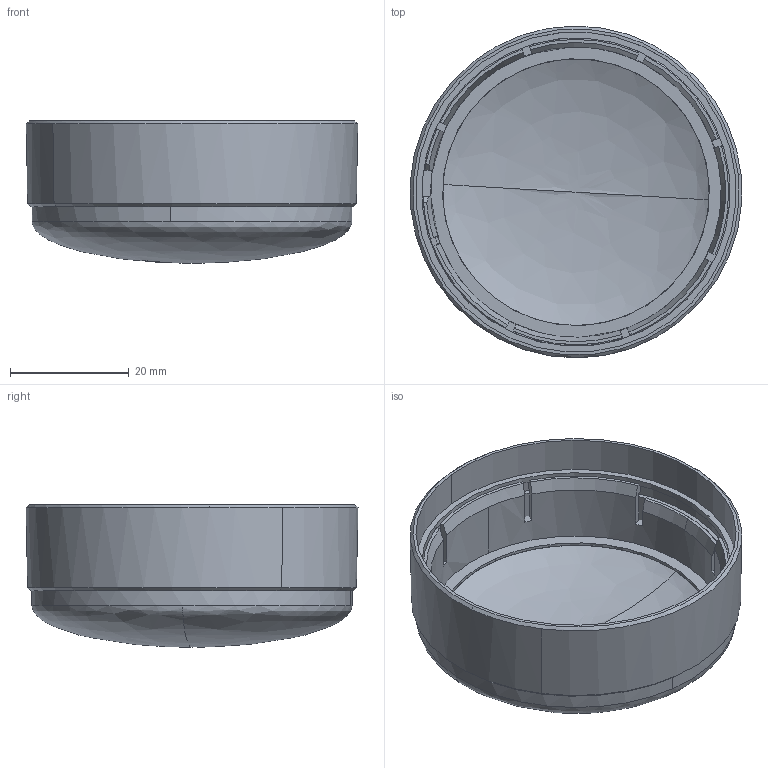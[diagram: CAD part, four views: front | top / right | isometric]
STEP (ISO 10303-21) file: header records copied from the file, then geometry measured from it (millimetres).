
FILE_DESCRIPTION (( 'STEP AP214' ), '1' );
FILE_NAME ('28250010000 - BR50_Top Module.STEP', '2010-07-06T10:19:56', ( ' ' ), ( ' ' ), 'SwSTEP 2.0', 'SolidWorks 2010', '' );
FILE_SCHEMA (( 'AUTOMOTIVE_DESIGN' ));
Length unit declared in the file: millimetre
Products named in the file (1): 28250010000 - BR50_Top Module
Bounding box: 55.88 x 55.98 x 24 mm (x, y, z)
Surface area: 14570.6 mm2 (no closed solid volume)
Topology: 0 solids, 3 shells, 79 faces, 266 edges, 179 vertices
Faces by surface type: plane 37, bspline 20, cylinder 15, cone 7
Entity records: 3835 total; most frequent: CARTESIAN_POINT 707, DIRECTION 473, ORIENTED_EDGE 450, EDGE_CURVE 260, VERTEX_POINT 179, AXIS2_PLACEMENT_3D 163, VECTOR 147, LINE 147
